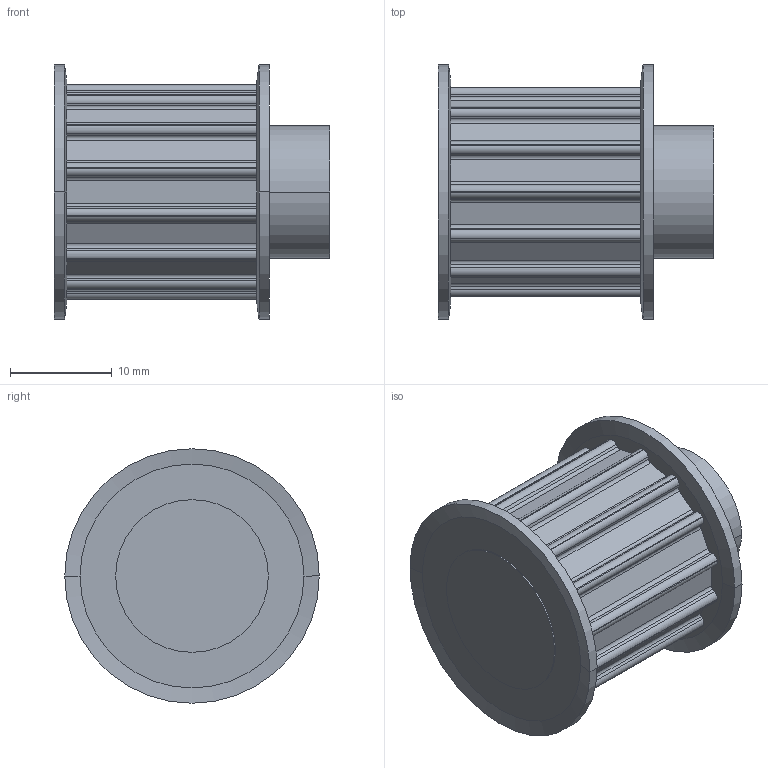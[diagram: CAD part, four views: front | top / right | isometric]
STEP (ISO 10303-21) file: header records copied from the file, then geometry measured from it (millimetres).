
FILE_DESCRIPTION( ( '' ), '1' );
FILE_NAME( 'C:/Users/Stangenbergd/Documents/CAD_Step/1/16631400.stp', '2021-10-19T09:35:55', ( '' ), ( '' ), ' ', ' ', ' ' );
FILE_SCHEMA( ( 'CONFIG_CONTROL_DESIGN' ) );
Length unit declared in the file: millimetre
Products named in the file (1): 1
Bounding box: 27.06 x 25 x 25 mm (x, y, z)
Volume: 7449.5 mm3; surface area: 3221.2 mm2
Topology: 1 solids, 1 shells, 137 faces, 382 edges, 252 vertices
Faces by surface type: cylinder 80, plane 49, cone 8
Entity records: 4504 total; most frequent: DIRECTION 826, CARTESIAN_POINT 772, ORIENTED_EDGE 764, EDGE_CURVE 382, AXIS2_PLACEMENT_3D 306, VERTEX_POINT 252, LINE 214, VECTOR 214
